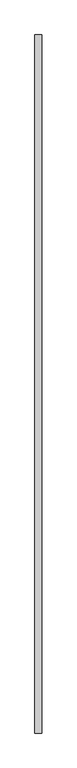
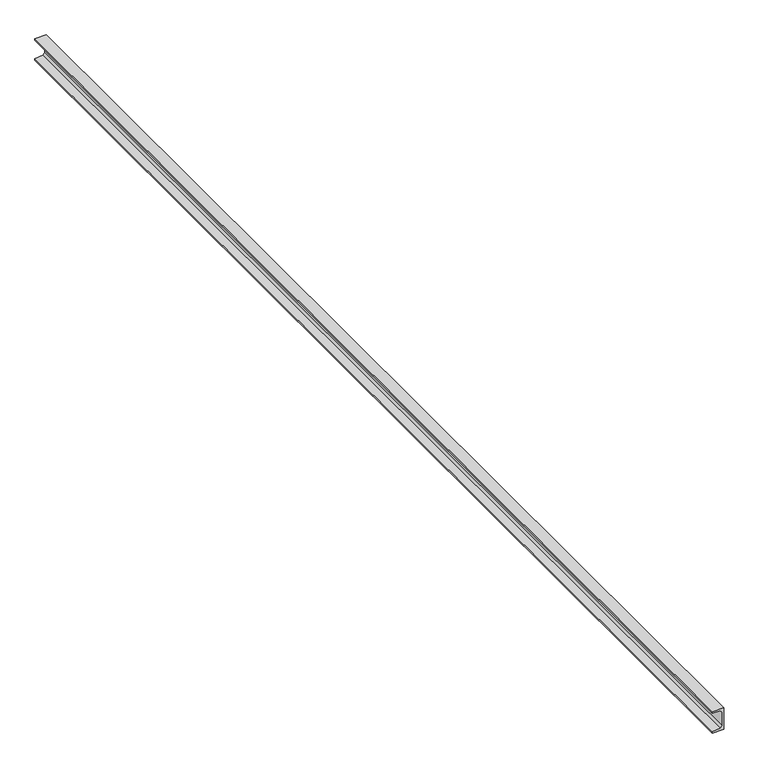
"""IFC4 building model written with IfcOpenShell, lengths in millimetres: beam geometry, Murailli?re 190169 : Murailli?re 190169."""

from ifc_helpers import new_model, si_unit, frame, origin, place, context, project, spatial, polyline, outline, extrude, source, transform, mapped, element, save


def beam_9e77c314(model_context):
    return source(origin(), model_context, "Body", "SweptSolid", [
        extrude(outline(polyline([(7402.425, 15339.9999999), (7395.925, 15339.9999999), (7395.925, 15389.9999999), (7495.925, 15389.9999999), (7495.925, 15339.9999999), (7489.425, 15339.9999999), (7486.585, 15375.4999999), (7477.405, 15383.9999999), (7414.445, 15383.9999999), (7405.265, 15375.4999999), (7402.425, 15339.9999999)])), frame((0.0, -34270.0, 0.0), z_axis=(0.0, 1.0, 0.0), x_axis=(0.0, 0.0, 1.0)), (0.0, 0.0, 1.0), 5170.55),
    ])


if __name__ == "__main__":
    model = new_model("IFC4")
    model_context = context("Model", 3, world=origin())
    ifc_project = project(units=[si_unit("LENGTHUNIT", "METRE", prefix="MILLI")], contexts=[model_context])
    site = spatial("IfcSite", under=ifc_project)
    building = spatial("IfcBuilding", under=site)
    placement = place(None, origin())
    beam_shape = beam_9e77c314(model_context)
    element("IfcBeam", 1, ObjectType="Murailli?re 190169 : Murailli?re 190169", at=placement, inside=building, context=model_context, shape_type="MappedRepresentation", body=[
        mapped(beam_shape, transform((0.0, 0.0, 0.0), x_axis=(1.0, 0.0, 0.0), y_axis=(0.0, 1.0, 0.0), z_axis=(0.0, 0.0, 1.0))),
    ])
    save(model, "model.ifc")
